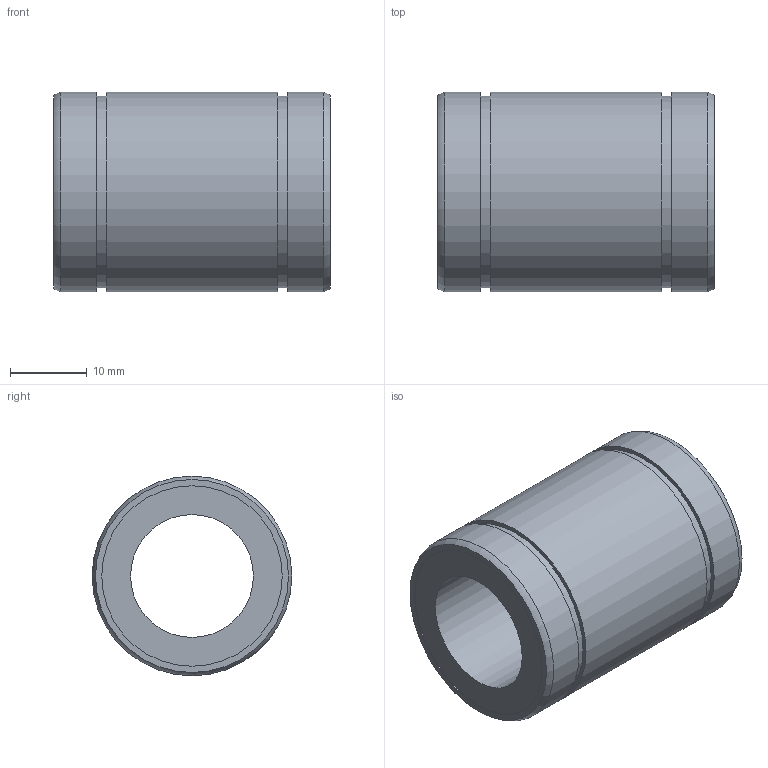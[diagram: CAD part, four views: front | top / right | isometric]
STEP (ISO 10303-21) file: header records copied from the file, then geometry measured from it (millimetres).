
FILE_DESCRIPTION((''),'2;1');
FILE_NAME('D:\製品 (図面)\カタログ用3D\リニアベアリング関連\STEP形式\LE\LE16.stp','2010-06-03T09:05:10',('Tsuchiya'),(''),'Autodesk Inventor 10','Autodesk Inventor 10','');
FILE_SCHEMA(('AUTOMOTIVE_DESIGN { 1 0 10303 214 1 1 1 1 }'));
Length unit declared in the file: millimetre
Products named in the file (1): LE16
Bounding box: 36 x 26 x 26 mm (x, y, z)
Volume: 11687 mm3; surface area: 5526.4 mm2
Topology: 1 solids, 1 shells, 18 faces, 28 edges, 18 vertices
Faces by surface type: plane 8, cylinder 8, torus 2
Full cylindrical faces by diameter (mm): 16 x1, 23.5 x2, 24.9 x2, 26 x3
Entity records: 391 total; most frequent: DIRECTION 74, CARTESIAN_POINT 55, AXIS2_PLACEMENT_3D 37, ORIENTED_EDGE 36, EDGE_LOOP 36, VERTEX_POINT 18, CIRCLE 18, EDGE_CURVE 18
